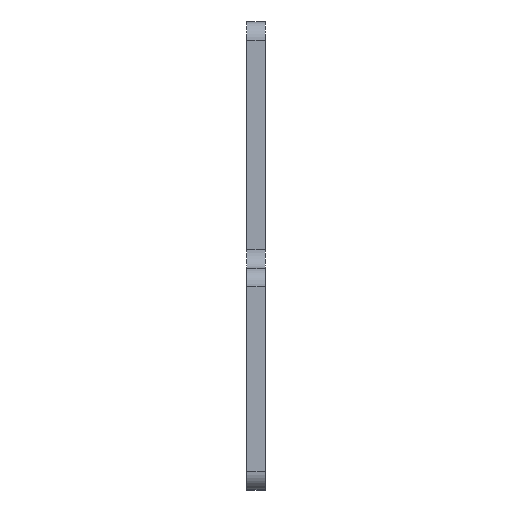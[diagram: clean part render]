
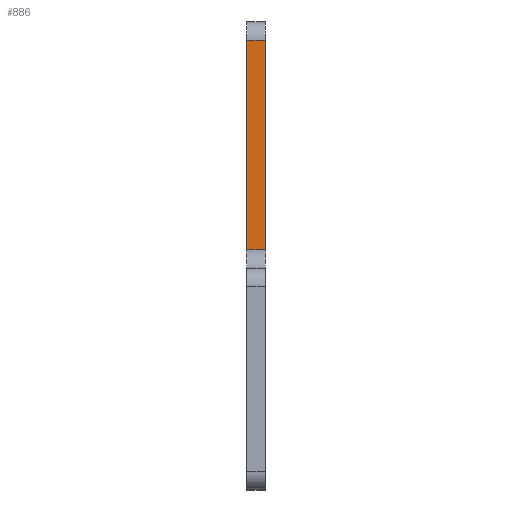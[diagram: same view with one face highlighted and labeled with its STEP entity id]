
A CAD part, left-side view. The second image highlights one B-rep face of the part: STEP entity #886.
In plain terms, the highlighted planar face has unit normal (-1, 0, 0).
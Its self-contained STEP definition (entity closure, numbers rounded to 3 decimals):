
#119 = LINE ( 'NONE', #626, #850 ) ;
#122 = DIRECTION ( 'NONE',  ( 0., -1., 0. ) ) ;
#200 = VERTEX_POINT ( 'NONE', #1067 ) ;
#223 = ORIENTED_EDGE ( 'NONE', *, *, #1033, .T. ) ;
#249 = DIRECTION ( 'NONE',  ( 0., 0., -1. ) ) ;
#252 = VECTOR ( 'NONE', #249, 1000. ) ;
#274 = LINE ( 'NONE', #411, #701 ) ;
#277 = EDGE_CURVE ( 'NONE', #974, #287, #924, .T. ) ;
#287 = VERTEX_POINT ( 'NONE', #814 ) ;
#300 = CARTESIAN_POINT ( 'NONE',  ( -18., 0., 58. ) ) ;
#335 = ORIENTED_EDGE ( 'NONE', *, *, #873, .F. ) ;
#371 = ORIENTED_EDGE ( 'NONE', *, *, #277, .F. ) ;
#384 = DIRECTION ( 'NONE',  ( -1., 0., 0. ) ) ;
#392 = DIRECTION ( 'NONE',  ( 0., 0., -1. ) ) ;
#411 = CARTESIAN_POINT ( 'NONE',  ( -18., 3., 21. ) ) ;
#429 = DIRECTION ( 'NONE',  ( 0., 1., 0. ) ) ;
#470 = FACE_OUTER_BOUND ( 'NONE', #632, .T. ) ;
#578 = EDGE_CURVE ( 'NONE', #287, #200, #274, .T. ) ;
#592 = VERTEX_POINT ( 'NONE', #785 ) ;
#626 = CARTESIAN_POINT ( 'NONE',  ( -18., 0., 55. ) ) ;
#632 = EDGE_LOOP ( 'NONE', ( #223, #655, #371, #335 ) ) ;
#637 = DIRECTION ( 'NONE',  ( 0., 0., -1. ) ) ;
#645 = AXIS2_PLACEMENT_3D ( 'NONE', #300, #384, #392 ) ;
#646 = CARTESIAN_POINT ( 'NONE',  ( -18., 0., 55. ) ) ;
#655 = ORIENTED_EDGE ( 'NONE', *, *, #578, .F. ) ;
#687 = VECTOR ( 'NONE', #637, 1000. ) ;
#701 = VECTOR ( 'NONE', #429, 1000. ) ;
#719 = CARTESIAN_POINT ( 'NONE',  ( -18., 0., 58. ) ) ;
#736 = PLANE ( 'NONE',  #645 ) ;
#785 = CARTESIAN_POINT ( 'NONE',  ( -18., 3., 55. ) ) ;
#814 = CARTESIAN_POINT ( 'NONE',  ( -18., 0., 21. ) ) ;
#839 = LINE ( 'NONE', #928, #252 ) ;
#850 = VECTOR ( 'NONE', #122, 1000. ) ;
#873 = EDGE_CURVE ( 'NONE', #592, #974, #119, .T. ) ;
#886 = ADVANCED_FACE ( 'NONE', ( #470 ), #736, .T. ) ;
#924 = LINE ( 'NONE', #719, #687 ) ;
#928 = CARTESIAN_POINT ( 'NONE',  ( -18., 3., 58. ) ) ;
#974 = VERTEX_POINT ( 'NONE', #646 ) ;
#1033 = EDGE_CURVE ( 'NONE', #592, #200, #839, .T. ) ;
#1067 = CARTESIAN_POINT ( 'NONE',  ( -18., 3., 21. ) ) ;
